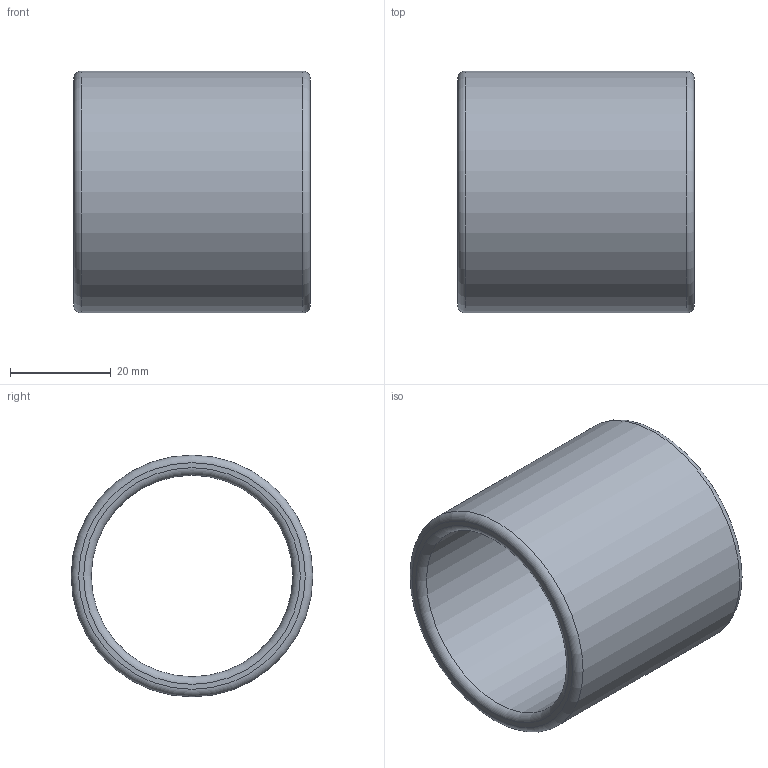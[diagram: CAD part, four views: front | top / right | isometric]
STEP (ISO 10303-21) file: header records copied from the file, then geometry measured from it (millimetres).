
FILE_DESCRIPTION(/* description */ ('Impex Ready, www.impex-ready.pl'),/* implementation_level */ '2;1');
FILE_NAME(/* name */ 'C:\Users\VIKKY\Nextcloud\SM\projekt 10 - części na stronę internetową\Pliki_3D_new\282 Tuleje BLAG\282_BLAG_STEP\BLAG3247.ipt.step',/* time_stamp */ '2021-12-07T14:19:42+03:00',/* author */ ('SM'),/* organization */ (''),/* preprocessor_version */ 'ST-DEVELOPER v18.1',/* originating_system */ 'Autodesk Inventor 2021',/* authorisation */ '');
FILE_SCHEMA (('AUTOMOTIVE_DESIGN { 1 0 10303 214 3 1 1 }'));
Length unit declared in the file: millimetre
Products named in the file (1): BLAG3247
Bounding box: 47 x 48 x 48 mm (x, y, z)
Volume: 25720.3 mm3; surface area: 13743.5 mm2
Topology: 1 solids, 1 shells, 8 faces, 18 edges, 12 vertices
Faces by surface type: torus 4, plane 2, cylinder 2
Full cylindrical faces by diameter (mm): 40 x1, 48 x1
Entity records: 309 total; most frequent: DIRECTION 52, CARTESIAN_POINT 39, ORIENTED_EDGE 36, AXIS2_PLACEMENT_3D 25, EDGE_CURVE 18, CIRCLE 16, VERTEX_POINT 12, EDGE_LOOP 10
